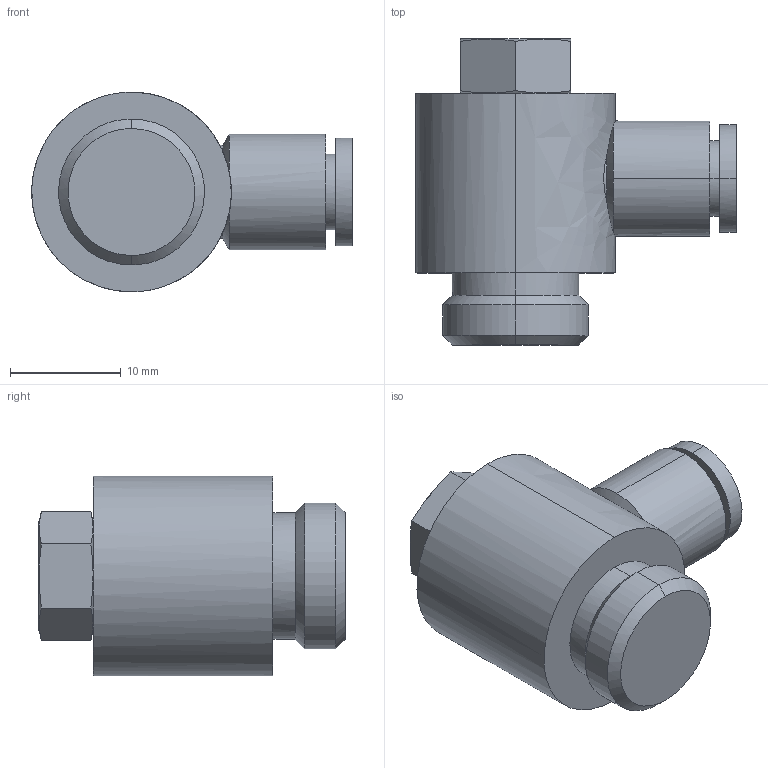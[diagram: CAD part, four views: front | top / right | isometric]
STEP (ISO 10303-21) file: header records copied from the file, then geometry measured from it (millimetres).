
FILE_DESCRIPTION (( 'STEP AP214' ), '1' );
FILE_NAME ('KQ2V06-G02A.STEP', '2023-03-09T03:02:42', ( 'Windows User' ), ( 'P R C' ), 'SwSTEP 2.0', 'SolidWorks 2019', '' );
FILE_SCHEMA (( 'AUTOMOTIVE_DESIGN' ));
Length unit declared in the file: millimetre
Products named in the file (1): KQ2V06-G02A
Bounding box: 28.89 x 27.6 x 18 mm (x, y, z)
Volume: 5846.4 mm3; surface area: 2600.9 mm2
Topology: 1 solids, 1 shells, 43 faces, 92 edges, 58 vertices
Faces by surface type: bspline 28, plane 15
Entity records: 1668 total; most frequent: CARTESIAN_POINT 1027, ORIENTED_EDGE 184, EDGE_CURVE 92, B_SPLINE_CURVE_WITH_KNOTS 63, VERTEX_POINT 58, EDGE_LOOP 50, ADVANCED_FACE 43, FACE_OUTER_BOUND 43
